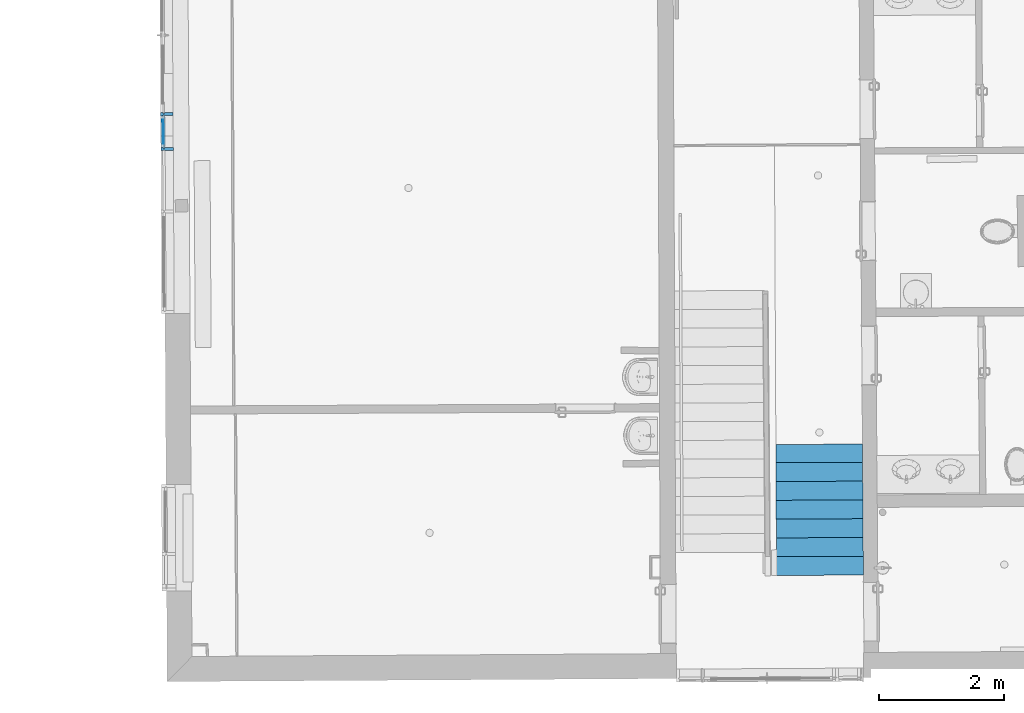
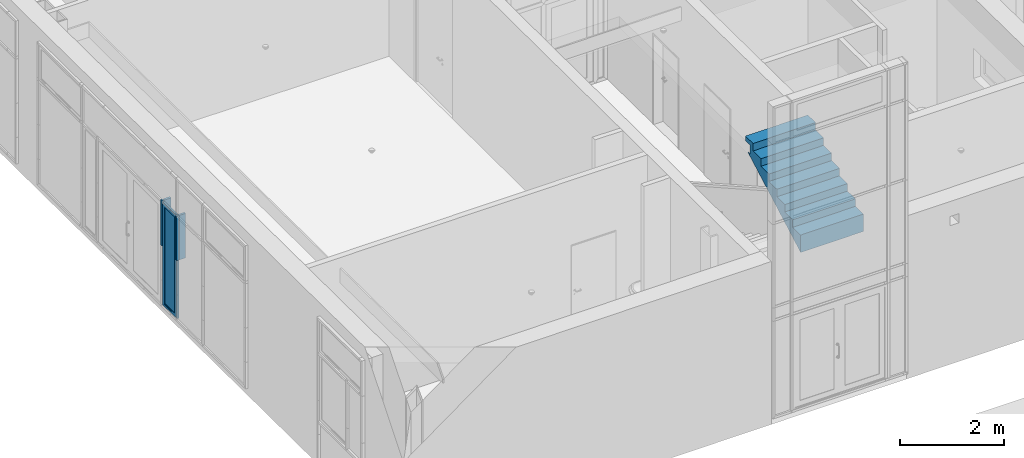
# One storey, part 121 of 196: 5 building element parts, 2 elements without a shape of their own.
"""IFC2X3 building model written with IfcOpenShell, lengths in metres."""

from ifc_helpers import new_model, entity, si_unit, converted_unit, derived_unit, money_unit, direction, frame, origin_with_axes, place, context, subcontext, project, spatial, faceted_brep, material, type_object, element, aggregate, save


model = new_model("IFC2X3")

# Units and contexts
model_context = context("Model", 3, precision=1e-05, world=origin_with_axes(), true_north=direction((0.0, 1.0)))
body_context = subcontext(model_context, "Body", "Model", "MODEL_VIEW")
ifc_project = project(units=[si_unit("LENGTHUNIT", "METRE"), si_unit("AREAUNIT", "SQUARE_METRE"), si_unit("VOLUMEUNIT", "CUBIC_METRE"), converted_unit("PLANEANGLEUNIT", "DEGREE", entity("IfcPlaneAngleMeasure", 0.0174532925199), si_unit("PLANEANGLEUNIT", "RADIAN"), dimensions=[0, 0, 0, 0, 0, 0, 0]), money_unit("EUR"), converted_unit("TIMEUNIT", "Year", entity("IfcTimeMeasure", 31556926.0), si_unit("TIMEUNIT", "SECOND"), dimensions=[0, 0, 1, 0, 0, 0, 0]), si_unit("MASSUNIT", "GRAM", prefix="KILO"), si_unit("THERMODYNAMICTEMPERATUREUNIT", "DEGREE_CELSIUS"), si_unit("LUMINOUSINTENSITYUNIT", "LUMEN"), si_unit("ENERGYUNIT", "JOULE", prefix="MEGA"), derived_unit("THERMALCONDUCTANCEUNIT", [(si_unit("POWERUNIT", "WATT"), 1), (si_unit("LENGTHUNIT", "METRE"), -1), (si_unit("THERMODYNAMICTEMPERATUREUNIT", "KELVIN"), -1)]), derived_unit("SPECIFICHEATCAPACITYUNIT", [(si_unit("ENERGYUNIT", "JOULE"), 1), (si_unit("MASSUNIT", "GRAM", prefix="KILO"), -1), (si_unit("THERMODYNAMICTEMPERATUREUNIT", "KELVIN"), -1)]), derived_unit("MASSDENSITYUNIT", [(si_unit("MASSUNIT", "GRAM", prefix="KILO"), 1), (si_unit("VOLUMEUNIT", "CUBIC_METRE"), -1)])], contexts=[model_context])

# Site, building, storey
site_placement = place(None, origin_with_axes())
site = spatial("IfcSite", under=ifc_project, at=site_placement, Name="Gelände", CompositionType="ELEMENT")
building_placement = place(site_placement, origin_with_axes())
building = spatial("IfcBuilding", under=site, at=building_placement, Name="Gebäude", CompositionType="ELEMENT")
storey_placement = place(building_placement, frame((0.0, 0.0, -3.0), z_axis=(0.0, 0.0, 1.0), x_axis=(1.0, 0.0, 0.0)))
storey = spatial("IfcBuildingStorey", under=building, at=storey_placement, Name="KELLERGESCHOSS", CompositionType="ELEMENT", Elevation=-3.0)

# Proxy, building element parts
building_element_proxy_type = type_object("IfcBuildingElementProxyType", Name="Fassadentyp", PredefinedType="NOTDEFINED")
proxy_placement = place(storey_placement, frame((-34.8766751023, 40.9954775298, 0.421025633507), z_axis=(0.0, 0.0, 1.0), x_axis=(1.0, 0.0, 0.0)))
proxy = element("IfcBuildingElementProxy", 1, at=proxy_placement, inside=storey, type_object=building_element_proxy_type, Name="Fassade-002")
ifc_material_1 = material(Name="53_Metall, Aluminium")
building_element_part_1_placement = place(proxy_placement, origin_with_axes())
building_element_part_1 = element("IfcBuildingElementPart", 2, at=building_element_part_1_placement, material=ifc_material_1, Name="53_Metall, Aluminium", context=body_context, shape_type="Brep", body=[
    faceted_brep([(-0.0236536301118, -1.08219614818, 0.0499999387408), (-0.0206595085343, -1.59271846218, 0.0499999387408), (-0.0256594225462, -1.59274778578, 0.0499999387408), (-0.0286535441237, -1.08222547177, 0.0499999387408), (-0.0233897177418, -1.12719537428, 0.0949999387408), (-0.0209234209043, -1.54771923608, 0.0949999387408), (-0.0259233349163, -1.54774855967, 0.0949999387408), (-0.0283896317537, -1.12722469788, 0.0949999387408)], [[[0, 1, 2, 3]], [[0, 4, 5, 1]], [[1, 5, 6, 2]], [[3, 2, 6, 7]], [[4, 0, 3, 7]], [[5, 4, 7, 6]]]),
    faceted_brep([(-0.0206595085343, -1.59271846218, 0.0499999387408), (-0.0206595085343, -1.59271846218, 2.43264332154), (-0.0256594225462, -1.59274778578, 2.43264332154), (-0.0256594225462, -1.59274778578, 0.0499999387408), (-0.0209234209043, -1.54771923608, 0.0949999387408), (-0.0209234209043, -1.54771923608, 2.38764332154), (-0.0259233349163, -1.54774855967, 2.38764332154), (-0.0259233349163, -1.54774855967, 0.0949999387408)], [[[0, 1, 2, 3]], [[0, 4, 5, 1]], [[1, 5, 6, 2]], [[3, 2, 6, 7]], [[4, 0, 3, 7]], [[5, 4, 7, 6]]]),
    faceted_brep([(-0.0236536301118, -1.08219614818, 2.43264332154), (-0.0233897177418, -1.12719537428, 2.38764332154), (-0.0283896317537, -1.12722469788, 2.38764332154), (-0.0286535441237, -1.08222547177, 2.43264332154), (-0.0206595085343, -1.59271846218, 2.43264332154), (-0.0209234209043, -1.54771923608, 2.38764332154), (-0.0259233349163, -1.54774855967, 2.38764332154), (-0.0256594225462, -1.59274778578, 2.43264332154)], [[[0, 1, 2, 3]], [[0, 4, 5, 1]], [[1, 5, 6, 2]], [[3, 2, 6, 7]], [[4, 0, 3, 7]], [[5, 4, 7, 6]]]),
    faceted_brep([(-0.0236536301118, -1.08219614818, 0.0499999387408), (-0.0233897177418, -1.12719537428, 0.0949999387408), (-0.0283896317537, -1.12722469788, 0.0949999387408), (-0.0286535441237, -1.08222547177, 0.0499999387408), (-0.0236536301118, -1.08219614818, 2.43264332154), (-0.0233897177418, -1.12719537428, 2.38764332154), (-0.0283896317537, -1.12722469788, 2.38764332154), (-0.0286535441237, -1.08222547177, 2.43264332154)], [[[0, 1, 2, 3]], [[0, 4, 5, 1]], [[1, 5, 6, 2]], [[3, 2, 6, 7]], [[4, 0, 3, 7]], [[5, 4, 7, 6]]]),
    faceted_brep([(0.0263455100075, -1.08190291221, 0.0499999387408), (0.029339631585, -1.59242522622, 0.0499999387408), (-0.0206595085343, -1.59271846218, 0.0499999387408), (-0.0236536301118, -1.08219614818, 0.0499999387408), (0.0264628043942, -1.10190256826, 0.0699999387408), (0.0292223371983, -1.57242557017, 0.0699999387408), (-0.020776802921, -1.57271880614, 0.0699999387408), (-0.0235363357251, -1.10219580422, 0.0699999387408)], [[[0, 1, 2, 3]], [[0, 4, 5, 1]], [[1, 5, 6, 2]], [[3, 2, 6, 7]], [[4, 0, 3, 7]], [[5, 4, 7, 6]]]),
    faceted_brep([(0.029339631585, -1.59242522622, 0.0499999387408), (0.029339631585, -1.59242522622, 2.43264332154), (-0.0206595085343, -1.59271846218, 2.43264332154), (-0.0206595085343, -1.59271846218, 0.0499999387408), (0.0292223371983, -1.57242557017, 0.0699999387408), (0.0292223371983, -1.57242557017, 2.41264332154), (-0.020776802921, -1.57271880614, 2.41264332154), (-0.020776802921, -1.57271880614, 0.0699999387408)], [[[0, 1, 2, 3]], [[0, 4, 5, 1]], [[1, 5, 6, 2]], [[3, 2, 6, 7]], [[4, 0, 3, 7]], [[5, 4, 7, 6]]]),
    faceted_brep([(0.0263455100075, -1.08190291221, 2.43264332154), (0.0264628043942, -1.10190256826, 2.41264332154), (-0.0235363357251, -1.10219580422, 2.41264332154), (-0.0236536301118, -1.08219614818, 2.43264332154), (0.029339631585, -1.59242522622, 2.43264332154), (0.0292223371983, -1.57242557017, 2.41264332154), (-0.020776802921, -1.57271880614, 2.41264332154), (-0.0206595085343, -1.59271846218, 2.43264332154)], [[[0, 1, 2, 3]], [[0, 4, 5, 1]], [[1, 5, 6, 2]], [[3, 2, 6, 7]], [[4, 0, 3, 7]], [[5, 4, 7, 6]]]),
    faceted_brep([(0.0263455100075, -1.08190291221, 0.0499999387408), (0.0264628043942, -1.10190256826, 0.0699999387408), (-0.0235363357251, -1.10219580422, 0.0699999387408), (-0.0236536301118, -1.08219614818, 0.0499999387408), (0.0263455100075, -1.08190291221, 2.43264332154), (0.0264628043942, -1.10190256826, 2.41264332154), (-0.0235363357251, -1.10219580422, 2.41264332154), (-0.0236536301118, -1.08219614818, 2.43264332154)], [[[0, 1, 2, 3]], [[0, 4, 5, 1]], [[1, 5, 6, 2]], [[3, 2, 6, 7]], [[4, 0, 3, 7]], [[5, 4, 7, 6]]]),
    faceted_brep([(0.0262575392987, -1.06690318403, 0.0349999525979), (0.0294276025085, -1.60742499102, 0.0349999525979), (-0.0105717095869, -1.60765957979, 0.0349999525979), (-0.0137417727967, -1.0671377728, 0.0349999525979), (0.0263455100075, -1.08190291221, 0.0499999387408), (0.029339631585, -1.59242522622, 0.0499999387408), (-0.0106596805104, -1.59265981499, 0.0499999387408), (-0.013653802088, -1.08213750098, 0.0499999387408)], [[[0, 1, 2, 3]], [[0, 4, 5, 1]], [[1, 5, 6, 2]], [[3, 2, 6, 7]], [[4, 0, 3, 7]], [[5, 4, 7, 6]]]),
    faceted_brep([(0.0294276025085, -1.60742499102, 0.0349999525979), (0.0294276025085, -1.60742499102, 2.44764330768), (-0.0105717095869, -1.60765957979, 2.44764330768), (-0.0105717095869, -1.60765957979, 0.0349999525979), (0.029339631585, -1.59242522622, 0.0499999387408), (0.029339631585, -1.59242522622, 2.43264332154), (-0.0106596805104, -1.59265981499, 2.43264332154), (-0.0106596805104, -1.59265981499, 0.0499999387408)], [[[0, 1, 2, 3]], [[0, 4, 5, 1]], [[1, 5, 6, 2]], [[3, 2, 6, 7]], [[4, 0, 3, 7]], [[5, 4, 7, 6]]]),
    faceted_brep([(0.0294276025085, -1.60742499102, 2.44764330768), (0.0262575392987, -1.06690318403, 2.44764330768), (-0.0137417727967, -1.0671377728, 2.44764330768), (-0.0105717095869, -1.60765957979, 2.44764330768), (0.029339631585, -1.59242522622, 2.43264332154), (0.0263455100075, -1.08190291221, 2.43264332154), (-0.013653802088, -1.08213750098, 2.43264332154), (-0.0106596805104, -1.59265981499, 2.43264332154)], [[[0, 1, 2, 3]], [[0, 4, 5, 1]], [[1, 5, 6, 2]], [[3, 2, 6, 7]], [[4, 0, 3, 7]], [[5, 4, 7, 6]]]),
    faceted_brep([(0.0262575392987, -1.06690318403, 2.44764330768), (0.0262575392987, -1.06690318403, 0.0349999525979), (-0.0137417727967, -1.0671377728, 0.0349999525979), (-0.0137417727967, -1.0671377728, 2.44764330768), (0.0263455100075, -1.08190291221, 2.43264332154), (0.0263455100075, -1.08190291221, 0.0499999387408), (-0.013653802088, -1.08213750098, 0.0499999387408), (-0.013653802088, -1.08213750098, 2.43264332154)], [[[0, 1, 2, 3]], [[0, 4, 5, 1]], [[1, 5, 6, 2]], [[3, 2, 6, 7]], [[4, 0, 3, 7]], [[5, 4, 7, 6]]]),
    faceted_brep([(-0.0232724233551, -1.14719503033, 0.114999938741), (0.0317266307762, -1.14687247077, 0.114999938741), (0.0317266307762, -1.14687247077, 2.36764332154), (-0.0232724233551, -1.14719503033, 2.36764332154), (-0.0235363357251, -1.10219580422, 0.0699999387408), (0.0314627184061, -1.10187324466, 0.0699999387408), (0.0314627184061, -1.10187324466, 2.41264332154), (-0.0235363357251, -1.10219580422, 2.41264332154)], [[[0, 1, 2, 3]], [[4, 5, 1, 0]], [[1, 5, 6, 2]], [[3, 2, 6, 7]], [[0, 3, 7, 4]], [[7, 6, 5, 4]]]),
    faceted_brep([(-0.020776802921, -1.57271880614, 0.0699999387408), (0.0342222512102, -1.57239624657, 0.0699999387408), (0.0342222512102, -1.57239624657, 2.41264332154), (-0.020776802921, -1.57271880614, 2.41264332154), (-0.021040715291, -1.52771958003, 0.114999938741), (0.0339583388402, -1.52739702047, 0.114999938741), (0.0339583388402, -1.52739702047, 2.36764332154), (-0.021040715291, -1.52771958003, 2.36764332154)], [[[0, 1, 2, 3]], [[4, 5, 1, 0]], [[1, 5, 6, 2]], [[3, 2, 6, 7]], [[0, 3, 7, 4]], [[7, 6, 5, 4]]]),
    faceted_brep([(-0.020776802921, -1.57271880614, 0.0699999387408), (0.0342222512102, -1.57239624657, 0.0699999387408), (0.0339583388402, -1.52739702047, 0.114999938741), (-0.021040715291, -1.52771958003, 0.114999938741), (-0.0235363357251, -1.10219580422, 0.0699999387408), (0.0314627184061, -1.10187324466, 0.0699999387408), (0.0317266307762, -1.14687247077, 0.114999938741), (-0.0232724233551, -1.14719503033, 0.114999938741)], [[[0, 1, 2, 3]], [[4, 5, 1, 0]], [[1, 5, 6, 2]], [[3, 2, 6, 7]], [[0, 3, 7, 4]], [[7, 6, 5, 4]]]),
    faceted_brep([(-0.0235363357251, -1.10219580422, 2.41264332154), (0.0314627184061, -1.10187324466, 2.41264332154), (0.0317266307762, -1.14687247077, 2.36764332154), (-0.0232724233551, -1.14719503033, 2.36764332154), (-0.020776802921, -1.57271880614, 2.41264332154), (0.0342222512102, -1.57239624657, 2.41264332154), (0.0339583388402, -1.52739702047, 2.36764332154), (-0.021040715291, -1.52771958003, 2.36764332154)], [[[0, 1, 2, 3]], [[4, 5, 1, 0]], [[1, 5, 6, 2]], [[3, 2, 6, 7]], [[0, 3, 7, 4]], [[7, 6, 5, 4]]]),
])
ifc_material_2 = material(Name="45_Glas, Normalglas")
building_element_part_2_placement = place(proxy_placement, origin_with_axes())
building_element_part_2 = element("IfcBuildingElementPart", 3, at=building_element_part_2_placement, material=ifc_material_2, Name="45_Glas, Normalglas", context=body_context, shape_type="Brep", body=[
    faceted_brep([(-0.0132725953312, -1.14713638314, 0.114999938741), (0.00272712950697, -1.14704254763, 0.114999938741), (0.004958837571, -1.52756709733, 0.114999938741), (-0.0110408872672, -1.52766093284, 0.114999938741), (-0.0132725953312, -1.14713638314, 2.36764332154), (0.00272712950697, -1.14704254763, 2.36764332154), (0.004958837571, -1.52756709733, 2.36764332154), (-0.0110408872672, -1.52766093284, 2.36764332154)], [[[0, 1, 2, 3]], [[4, 5, 1, 0]], [[1, 5, 6, 2]], [[3, 2, 6, 7]], [[0, 3, 7, 4]], [[7, 6, 5, 4]]]),
])
building_element_part_3_placement = place(proxy_placement, origin_with_axes())
building_element_part_3 = element("IfcBuildingElementPart", 4, at=building_element_part_3_placement, material=ifc_material_1, Name="53_Metall, Aluminium", context=body_context, shape_type="Brep", body=[
    faceted_brep([(0.0162577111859, -1.06696181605, 2.48264332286), (0.0163456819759, -1.08196155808, 2.48264332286), (0.15634327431, -1.08114049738, 2.48264332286), (0.156050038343, -1.03114135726, 2.48264332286), (0.0160524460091, -1.03196241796, 2.48264332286), (0.0161404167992, -1.04696216, 2.48264332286), (-0.00385923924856, -1.04707945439, 2.48264332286), (-0.00394721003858, -1.03207971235, 2.48264332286), (-0.043946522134, -1.03231430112, 2.48264332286), (-0.0436532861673, -1.08231344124, 2.48264332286), (-0.00365397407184, -1.08207885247, 2.48264332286), (-0.00374194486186, -1.06707911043, 2.48264332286), (0.0162577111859, -1.06696181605, 1.41999997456), (0.0163456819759, -1.08196155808, 1.41999997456), (0.15634327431, -1.08114049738, 1.41999997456), (0.156050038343, -1.03114135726, 1.41999997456), (0.0160524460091, -1.03196241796, 1.41999997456), (0.0161404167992, -1.04696216, 1.41999997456), (-0.00385923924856, -1.04707945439, 1.41999997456), (-0.00394721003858, -1.03207971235, 1.41999997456), (-0.043946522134, -1.03231430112, 1.41999997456), (-0.0436532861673, -1.08231344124, 1.41999997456), (-0.00365397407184, -1.08207885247, 1.41999997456), (-0.00374194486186, -1.06707911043, 1.41999997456)], [[[0, 1, 2, 3, 4, 5, 6, 7, 8, 9, 10, 11]], [[1, 0, 12, 13]], [[1, 13, 14, 2]], [[3, 2, 14, 15]], [[4, 3, 15, 16]], [[4, 16, 17, 5]], [[5, 17, 18, 6]], [[7, 6, 18, 19]], [[19, 20, 8, 7]], [[9, 8, 20, 21]], [[22, 10, 9, 21]], [[11, 10, 22, 23]], [[0, 11, 23, 12]], [[23, 22, 21, 20, 19, 18, 17, 16, 15, 14, 13, 12]]]),
])
building_element_part_4_placement = place(proxy_placement, origin_with_axes())
building_element_part_4 = element("IfcBuildingElementPart", 5, at=building_element_part_4_placement, material=ifc_material_1, Name="53_Metall, Aluminium", context=body_context, shape_type="Brep", body=[
    faceted_brep([(0.0195450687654, -1.62748327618, 2.45764332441), (0.0196330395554, -1.64248301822, 2.45764332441), (0.159630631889, -1.64166195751, 2.45764332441), (0.159337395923, -1.59166281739, 2.45764332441), (0.0193398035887, -1.5924838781, 2.45764332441), (0.0194277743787, -1.60748362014, 2.45764332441), (-0.000571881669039, -1.60760091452, 2.45764332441), (-0.000659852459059, -1.59260117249, 2.45764332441), (-0.0406591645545, -1.59283576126, 2.45764332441), (-0.0403659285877, -1.64283490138, 2.45764332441), (-0.000366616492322, -1.64260031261, 2.45764332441), (-0.000454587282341, -1.62760057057, 2.45764332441), (0.0195450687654, -1.62748327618, 1.41999997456), (0.0196330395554, -1.64248301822, 1.41999997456), (0.159630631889, -1.64166195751, 1.41999997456), (0.159337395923, -1.59166281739, 1.41999997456), (0.0193398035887, -1.5924838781, 1.41999997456), (0.0194277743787, -1.60748362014, 1.41999997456), (-0.000571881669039, -1.60760091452, 1.41999997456), (-0.000659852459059, -1.59260117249, 1.41999997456), (-0.0406591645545, -1.59283576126, 1.41999997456), (-0.0403659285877, -1.64283490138, 1.41999997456), (-0.000366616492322, -1.64260031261, 1.41999997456), (-0.000454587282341, -1.62760057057, 1.41999997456)], [[[0, 1, 2, 3, 4, 5, 6, 7, 8, 9, 10, 11]], [[1, 0, 12, 13]], [[1, 13, 14, 2]], [[3, 2, 14, 15]], [[4, 3, 15, 16]], [[4, 16, 17, 5]], [[5, 17, 18, 6]], [[7, 6, 18, 19]], [[19, 20, 8, 7]], [[9, 8, 20, 21]], [[22, 10, 9, 21]], [[11, 10, 22, 23]], [[0, 11, 23, 12]], [[23, 22, 21, 20, 19, 18, 17, 16, 15, 14, 13, 12]]]),
])
aggregate(proxy, [building_element_part_1, building_element_part_2, building_element_part_3, building_element_part_4])

# Stair, building element part
stair_placement = place(storey_placement, frame((-25.0447134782, 32.5520172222, 2.93990307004), z_axis=(0.0, 0.0, 1.0), x_axis=(0.999996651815, -0.00258773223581, 0.0)))
stair = element("IfcStair", 6, at=stair_placement, inside=storey, Name="Treppe-003", ShapeType="NOTDEFINED")
ifc_material_3 = material(Name="05_ALLGEMEIN - TRAGENDE BAUTEILE")
building_element_part_5_placement = place(stair_placement, origin_with_axes())
building_element_part_5 = element("IfcBuildingElementPart", 7, at=building_element_part_5_placement, material=ifc_material_3, Name="05_ALLGEMEIN - TRAGENDE BAUTEILE", context=body_context, shape_type="Brep", body=[
    faceted_brep([(1.37560297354, 1.80795080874, 1.12009692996), (1.37560297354, 1.80795080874, 1.22508481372), (-0.013236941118, 1.79772455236, 1.22508481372), (-0.013236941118, 1.79772455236, 1.05007269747), (1.37560297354, 1.80795080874, 1.05007269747), (1.37432917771, 1.93595640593, 1.12009692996), (1.3726713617, 2.10255275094, 1.12009692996), (1.3726713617, 2.10255275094, 1.22508481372), (1.37860054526, 1.50672046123, 1.05007269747), (1.37860054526, 1.50672046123, 0.875060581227), (1.38159811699, 1.20549011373, 0.875060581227), (1.38159811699, 1.20549011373, 0.700048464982), (1.38459568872, 0.904259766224, 0.700048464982), (1.38459568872, 0.904259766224, 0.525036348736), (1.38759326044, 0.60302941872, 0.525036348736), (1.38759326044, 0.60302941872, 0.350024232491), (1.39059083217, 0.301799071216, 0.350024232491), (1.39059083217, 0.301799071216, 0.175012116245), (1.39358840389, 0.000568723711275, 0.175012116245), (1.39358840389, 0.000568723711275, -0.232082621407), (1.39283901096, 0.0758763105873, -0.189478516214), (1.39208961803, 0.151183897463, -0.146874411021), (1.3913402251, 0.22649148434, -0.104270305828), (1.39059083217, 0.301799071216, -0.0616662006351), (1.38984143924, 0.377106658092, -0.0190620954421), (1.3890920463, 0.452414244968, 0.0235420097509), (1.38834265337, 0.527721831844, 0.0661461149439), (1.38759326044, 0.60302941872, 0.108750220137), (1.38684386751, 0.678337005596, 0.15135432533), (1.38609447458, 0.753644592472, 0.193958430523), (1.38534508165, 0.828952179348, 0.236562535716), (1.38459568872, 0.904259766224, 0.279166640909), (1.38384629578, 0.9795673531, 0.321770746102), (1.38309690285, 1.05487493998, 0.364374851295), (1.38234750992, 1.13018252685, 0.406978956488), (1.38159811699, 1.20549011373, 0.449583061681), (1.38084872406, 1.2807977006, 0.492187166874), (1.38009933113, 1.35610528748, 0.534791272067), (1.3793499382, 1.43141287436, 0.57739537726), (1.37860054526, 1.50672046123, 0.619999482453), (1.37785115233, 1.58202804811, 0.662603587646), (1.3771017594, 1.65733563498, 0.705207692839), (1.37635236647, 1.73264322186, 0.747811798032), (1.37560297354, 1.80795080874, 0.790415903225), (1.37485358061, 1.88325839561, 0.833020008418), (1.37432917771, 1.93595640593, 0.862833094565), (-0.0153797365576, 2.08874012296, 1.22508481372), (-0.0153797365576, 2.08874012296, 1.12009692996), (-0.014139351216, 1.92028192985, 1.12009692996), (-0.014139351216, 1.92028192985, 0.902417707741), (-0.0146946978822, 1.9957042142, 0.902417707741), (-0.0143459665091, 1.94834259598, 0.875624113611), (-0.0137914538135, 1.87303357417, 0.833020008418), (-0.013236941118, 1.79772455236, 0.790415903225), (-0.0126824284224, 1.72241553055, 0.747811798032), (-0.0121279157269, 1.64710650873, 0.705207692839), (-0.0115734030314, 1.57179748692, 0.662603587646), (-0.0110188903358, 1.49648846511, 0.619999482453), (-0.0104643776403, 1.4211794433, 0.57739537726), (-0.00990986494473, 1.34587042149, 0.534791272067), (-0.00935535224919, 1.27056139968, 0.492187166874), (-0.00880083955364, 1.19525237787, 0.449583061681), (-0.00824632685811, 1.11994335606, 0.406978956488), (-0.00769181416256, 1.04463433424, 0.364374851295), (-0.00713730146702, 0.969325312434, 0.321770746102), (-0.00658278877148, 0.894016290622, 0.279166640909), (-0.00602827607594, 0.818707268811, 0.236562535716), (-0.0054737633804, 0.743398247, 0.193958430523), (-0.00491925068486, 0.668089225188, 0.15135432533), (-0.00436473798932, 0.592780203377, 0.108750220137), (-0.00381022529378, 0.517471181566, 0.0661461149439), (-0.00325571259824, 0.442162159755, 0.0235420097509), (-0.0027011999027, 0.366853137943, -0.0190620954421), (-0.00214668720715, 0.291544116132, -0.0616662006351), (-0.00159217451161, 0.216235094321, -0.104270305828), (-0.00103766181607, 0.14092607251, -0.146874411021), (-0.000483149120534, 0.0656170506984, -0.189478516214), (7.13635750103e-05, -0.00969197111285, -0.232082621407), (7.13635750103e-05, -0.00969197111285, 0.175012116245), (-0.00214668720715, 0.291544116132, 0.175012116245), (-0.00214668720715, 0.291544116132, 0.350024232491), (-0.00436473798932, 0.592780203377, 0.350024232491), (-0.00436473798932, 0.592780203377, 0.525036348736), (-0.00658278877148, 0.894016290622, 0.525036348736), (-0.00658278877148, 0.894016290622, 0.700048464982), (-0.00880083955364, 1.19525237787, 0.700048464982), (-0.00880083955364, 1.19525237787, 0.875060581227), (-0.0110188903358, 1.49648846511, 0.875060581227), (-0.0110188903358, 1.49648846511, 1.05007269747), (0.142289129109, 1.92204785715, 0.860096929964), (0.000720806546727, 1.9484535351, 0.875624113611), (0.000881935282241, 1.92512044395, 0.862424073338), (0.000897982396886, 1.92512054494, 0.862424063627), (0.000919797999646, 1.92100693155, 0.860096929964), (0.000922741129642, 1.92045196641, 0.860096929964), (0.000922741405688, 1.92045191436, 0.879780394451), (0.000912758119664, 1.92045185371, 0.902417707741), (0.000396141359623, 1.99581533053, 0.902417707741)], [[[0, 1, 2, 3, 4]], [[5, 6, 7, 1, 0, 4, 8, 9, 10, 11, 12, 13, 14, 15, 16, 17, 18, 19, 20, 21, 22, 23, 24, 25, 26, 27, 28, 29, 30, 31, 32, 33, 34, 35, 36, 37, 38, 39, 40, 41, 42, 43, 44, 45]], [[1, 7, 46, 2]], [[46, 47, 48, 49, 50, 51, 52, 53, 54, 55, 56, 57, 58, 59, 60, 61, 62, 63, 64, 65, 66, 67, 68, 69, 70, 71, 72, 73, 74, 75, 76, 77, 78, 79, 80, 81, 82, 83, 84, 85, 86, 87, 88, 3, 2]], [[88, 8, 4, 3]], [[6, 5, 48, 47]], [[7, 6, 47, 46]], [[87, 9, 8, 88]], [[86, 10, 9, 87]], [[85, 11, 10, 86]], [[84, 12, 11, 85]], [[83, 13, 12, 84]], [[82, 14, 13, 83]], [[81, 15, 14, 82]], [[80, 16, 15, 81]], [[79, 17, 16, 80]], [[78, 18, 17, 79]], [[77, 19, 18, 78]], [[76, 20, 19, 77]], [[75, 21, 20, 76]], [[74, 22, 21, 75]], [[73, 23, 22, 74]], [[72, 24, 23, 73]], [[71, 25, 24, 72]], [[70, 26, 25, 71]], [[69, 27, 26, 70]], [[68, 28, 27, 69]], [[67, 29, 28, 68]], [[66, 30, 29, 67]], [[65, 31, 30, 66]], [[64, 32, 31, 65]], [[63, 33, 32, 64]], [[62, 34, 33, 63]], [[61, 35, 34, 62]], [[60, 36, 35, 61]], [[59, 37, 36, 60]], [[58, 38, 37, 59]], [[57, 39, 38, 58]], [[56, 40, 39, 57]], [[55, 41, 40, 56]], [[54, 42, 41, 55]], [[53, 43, 42, 54]], [[52, 44, 43, 53]], [[89, 45, 44, 52, 51, 90, 91, 92, 93]], [[48, 5, 45, 89, 94, 95, 96, 49]], [[50, 49, 96, 97]], [[90, 51, 50, 97]], [[97, 96, 95, 91, 90]], [[92, 91, 95]], [[92, 95, 94, 93]], [[89, 93, 94]]]),
])
aggregate(stair, [building_element_part_5])

save(model, "model.ifc")
